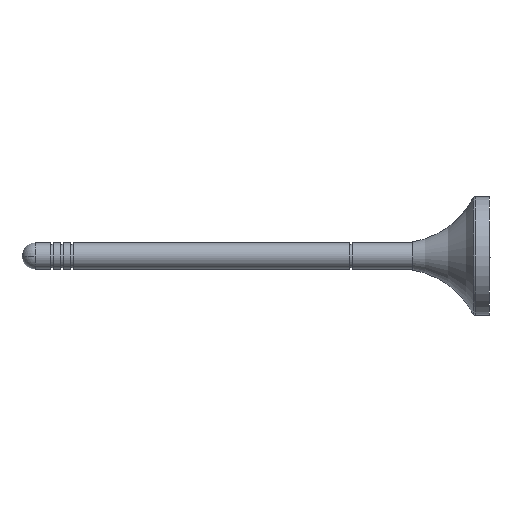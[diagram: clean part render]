
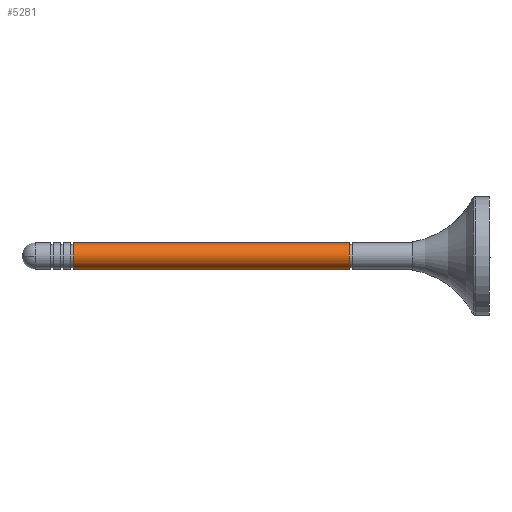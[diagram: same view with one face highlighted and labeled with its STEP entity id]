
A CAD part, left-side view. The second image highlights one B-rep face of the part: STEP entity #5281.
In plain terms, the highlighted cylindrical face has radius 3.25 mm (diameter 6.5 mm), a partial arc.
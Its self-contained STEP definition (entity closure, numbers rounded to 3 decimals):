
#20 = CIRCLE ( 'NONE', #2793, 3.25 ) ;
#104 = CARTESIAN_POINT ( 'NONE',  ( 0., -29.647, 3.25 ) ) ;
#417 = AXIS2_PLACEMENT_3D ( 'NONE', #1070, #3613, #1052 ) ;
#422 = CARTESIAN_POINT ( 'NONE',  ( 0., 103.3, 0. ) ) ;
#638 = EDGE_CURVE ( 'NONE', #1264, #1768, #666, .T. ) ;
#666 = CIRCLE ( 'NONE', #417, 3.25 ) ;
#728 = CARTESIAN_POINT ( 'NONE',  ( 0., 103.3, 3.25 ) ) ;
#861 = DIRECTION ( 'NONE',  ( 0., 0., 1. ) ) ;
#1052 = DIRECTION ( 'NONE',  ( 0., 0., 1. ) ) ;
#1070 = CARTESIAN_POINT ( 'NONE',  ( 0., 34.7, 0. ) ) ;
#1180 = CARTESIAN_POINT ( 'NONE',  ( 0., -29.647, -3.25 ) ) ;
#1264 = VERTEX_POINT ( 'NONE', #3410 ) ;
#1525 = DIRECTION ( 'NONE',  ( 0., 0., -1. ) ) ;
#1768 = VERTEX_POINT ( 'NONE', #4605 ) ;
#1799 = EDGE_LOOP ( 'NONE', ( #4909, #3279, #2920, #2760 ) ) ;
#1866 = EDGE_CURVE ( 'NONE', #3932, #4765, #20, .T. ) ;
#1915 = VECTOR ( 'NONE', #4719, 1000. ) ;
#2145 = DIRECTION ( 'NONE',  ( 0., 1., 0. ) ) ;
#2316 = EDGE_CURVE ( 'NONE', #3932, #1264, #3581, .T. ) ;
#2324 = FACE_OUTER_BOUND ( 'NONE', #1799, .T. ) ;
#2405 = DIRECTION ( 'NONE',  ( 0., -1., 0. ) ) ;
#2454 = VECTOR ( 'NONE', #3663, 1000. ) ;
#2760 = ORIENTED_EDGE ( 'NONE', *, *, #638, .T. ) ;
#2793 = AXIS2_PLACEMENT_3D ( 'NONE', #422, #2145, #861 ) ;
#2920 = ORIENTED_EDGE ( 'NONE', *, *, #2316, .T. ) ;
#3205 = CYLINDRICAL_SURFACE ( 'NONE', #3458, 3.25 ) ;
#3254 = CARTESIAN_POINT ( 'NONE',  ( 0., -29.647, 0. ) ) ;
#3279 = ORIENTED_EDGE ( 'NONE', *, *, #1866, .F. ) ;
#3410 = CARTESIAN_POINT ( 'NONE',  ( 0., 34.7, -3.25 ) ) ;
#3458 = AXIS2_PLACEMENT_3D ( 'NONE', #3254, #2405, #1525 ) ;
#3581 = LINE ( 'NONE', #1180, #2454 ) ;
#3613 = DIRECTION ( 'NONE',  ( 0., 1., 0. ) ) ;
#3663 = DIRECTION ( 'NONE',  ( 0., -1., 0. ) ) ;
#3932 = VERTEX_POINT ( 'NONE', #5410 ) ;
#4090 = EDGE_CURVE ( 'NONE', #4765, #1768, #4280, .T. ) ;
#4280 = LINE ( 'NONE', #104, #1915 ) ;
#4605 = CARTESIAN_POINT ( 'NONE',  ( 0., 34.7, 3.25 ) ) ;
#4719 = DIRECTION ( 'NONE',  ( 0., -1., 0. ) ) ;
#4765 = VERTEX_POINT ( 'NONE', #728 ) ;
#4909 = ORIENTED_EDGE ( 'NONE', *, *, #4090, .F. ) ;
#5281 = ADVANCED_FACE ( 'NONE', ( #2324 ), #3205, .T. ) ;
#5410 = CARTESIAN_POINT ( 'NONE',  ( 0., 103.3, -3.25 ) ) ;
